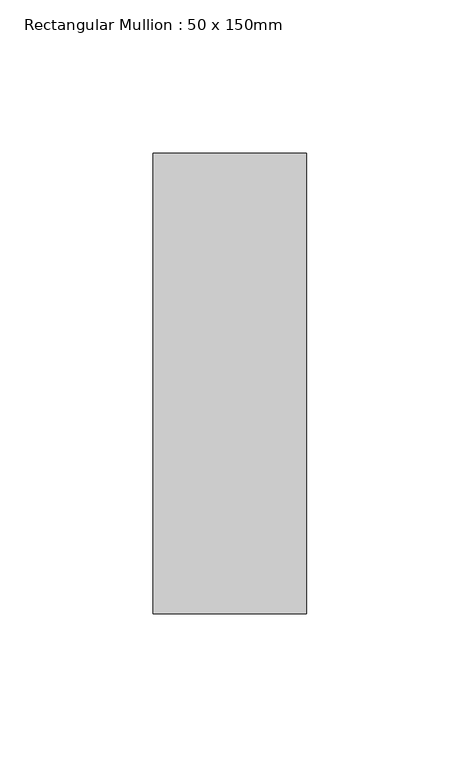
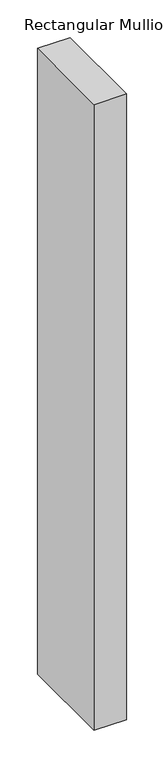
"""IFC4 building model written with IfcOpenShell, lengths in millimetres: member geometry, Rectangular Mullion : 50 x 150mm."""

from ifc_helpers import new_model, si_unit, frame, origin, place, context, project, spatial, polyline, outline, extrude, source, transform, mapped, element, save


def rectangular_mullion_50_x_150mm_641d0453(model_context):
    return source(origin(), model_context, "Body", "SweptSolid", [
        extrude(outline(polyline([(25.0, 75.0), (25.0, -75.0), (-25.0, -75.0), (-25.0, 75.0), (25.0, 75.0)])), frame((0.0, 0.0, -1015.0), z_axis=(0.0, 0.0, 1.0), x_axis=(1.0, 0.0, 0.0)), (0.0, 0.0, 1.0), 1015.0),
    ])


if __name__ == "__main__":
    model = new_model("IFC4")
    model_context = context("Model", 3, world=origin())
    ifc_project = project(units=[si_unit("LENGTHUNIT", "METRE", prefix="MILLI")], contexts=[model_context])
    site = spatial("IfcSite", under=ifc_project)
    building = spatial("IfcBuilding", under=site)
    placement = place(None, origin())
    rectangular_mullion_50_x_150mm_shape = rectangular_mullion_50_x_150mm_641d0453(model_context)
    element("IfcMember", 1, ObjectType="Rectangular Mullion : 50 x 150mm", at=placement, inside=building, context=model_context, shape_type="MappedRepresentation", body=[
        mapped(rectangular_mullion_50_x_150mm_shape, transform((0.0, 0.0, 0.0), x_axis=(1.0, 0.0, 0.0), y_axis=(0.0, 1.0, 0.0), z_axis=(0.0, 0.0, 1.0))),
    ])
    save(model, "model.ifc")
